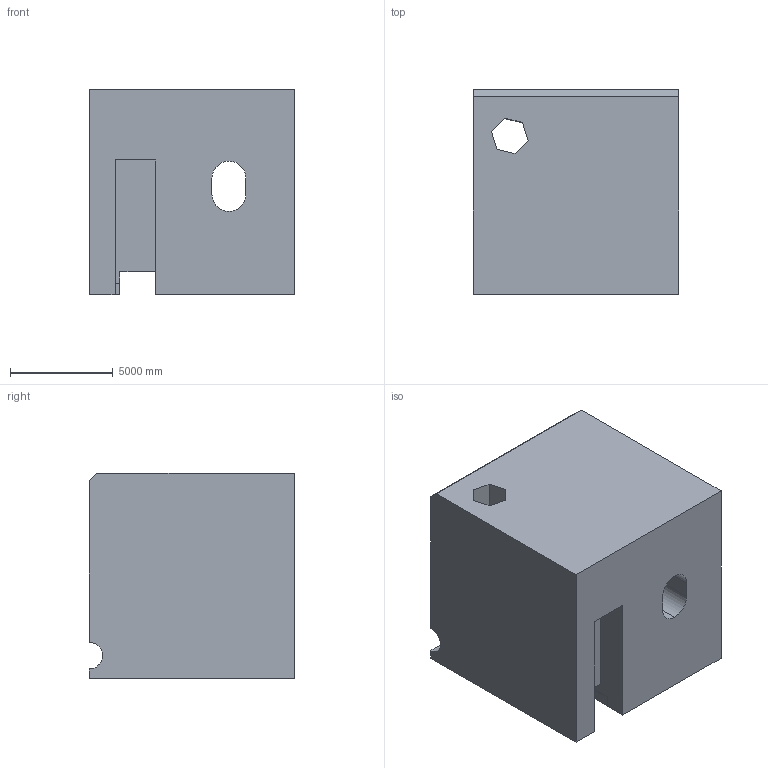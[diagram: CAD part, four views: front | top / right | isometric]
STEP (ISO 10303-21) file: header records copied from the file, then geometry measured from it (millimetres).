
FILE_DESCRIPTION (( 'STEP AP203' ), '1' );
FILE_NAME ('189.STEP', '2022-09-06T13:38:13', ( 'user' ), ( '' ), 'SwSTEP 2.0', 'SolidWorks 2021', '' );
FILE_SCHEMA (( 'CONFIG_CONTROL_DESIGN' ));
Length unit declared in the file: centimetre
Products named in the file (1): 189
Bounding box: 10000 x 10000 x 10000 mm (x, y, z)
Volume: 882985435596.1 mm3; surface area: 763906025.8 mm2
Topology: 1 solids, 1 shells, 42 faces, 120 edges, 80 vertices
Faces by surface type: plane 36, cylinder 6
Entity records: 1444 total; most frequent: CARTESIAN_POINT 243, ORIENTED_EDGE 240, DIRECTION 221, EDGE_CURVE 120, LINE 105, VECTOR 105, VERTEX_POINT 80, AXIS2_PLACEMENT_3D 58
